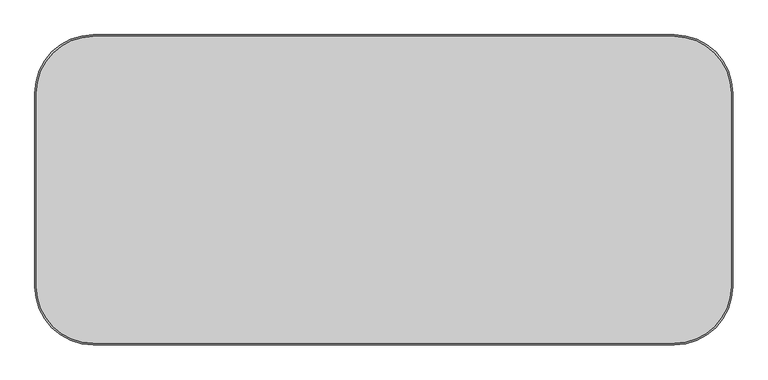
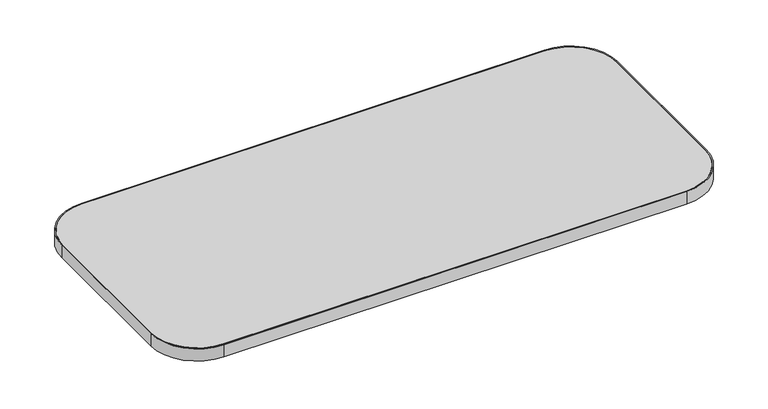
"""IFC4 building model written with IfcOpenShell, lengths in millimetres: furniture geometry, SmithSystem_AM_Desking_HeightAdjustable_Numbers_TwoStudent_Rectangle : 24″ x 54″."""

from ifc_helpers import new_model, si_unit, point, frame, frame_2d, origin, place, context, project, spatial, polyline, circle_curve, trimmed, segment, composite_curve, outline, extrude, source, transform, mapped, element, save


def furniture_4c59b52d(model_context):
    return source(origin(), model_context, "Body", "SweptSolid", [
        extrude(outline(composite_curve([segment(trimmed(circle_curve(frame_2d((114.3, -114.3)), 111.252), [point((3.048, -114.3))], [point((114.3, -3.048))], False, "CARTESIAN"), True, "CONTINUOUS"), segment(polyline([(114.3, -3.048), (1257.3, -3.048)]), True, "CONTINUOUS"), segment(trimmed(circle_curve(frame_2d((1257.3, -114.3)), 111.252), [point((1257.3, -3.048))], [point((1368.552, -114.3))], False, "CARTESIAN"), True, "CONTINUOUS"), segment(polyline([(1368.552, -114.3), (1368.552, -495.3)]), True, "CONTINUOUS"), segment(trimmed(circle_curve(frame_2d((1257.3, -495.3)), 111.252), [point((1368.552, -495.3))], [point((1257.3, -606.552))], False, "CARTESIAN"), True, "CONTINUOUS"), segment(polyline([(1257.3, -606.552), (114.3, -606.552)]), True, "CONTINUOUS"), segment(trimmed(circle_curve(frame_2d((114.3, -495.3)), 111.252), [point((114.3, -606.552))], [point((3.048, -495.3))], False, "CARTESIAN"), True, "CONTINUOUS"), segment(polyline([(3.048, -495.3), (3.048, -114.3)]), True, "CONTINUOUS")], self_intersect=False)), frame((0.0, 0.0, 590.1230576), z_axis=(0.0, 0.0, 1.0), x_axis=(1.0, 0.0, 0.0)), (0.0, 0.0, 1.0), 31.9229424),
        extrude(outline(composite_curve([segment(trimmed(circle_curve(frame_2d((1257.3, -114.3)), 114.3), [point((1257.3, 0.0))], [point((1371.6, -114.3))], False, "CARTESIAN"), True, "CONTINUOUS"), segment(polyline([(1371.6, -114.3), (1371.6, -495.3)]), True, "CONTINUOUS"), segment(trimmed(circle_curve(frame_2d((1257.3, -495.3)), 114.3), [point((1371.6, -495.3))], [point((1257.3, -609.6))], False, "CARTESIAN"), True, "CONTINUOUS"), segment(polyline([(1257.3, -609.6), (114.3, -609.6)]), True, "CONTINUOUS"), segment(trimmed(circle_curve(frame_2d((114.3, -495.3)), 114.3), [point((114.3, -609.6))], [point((0.0, -495.3))], False, "CARTESIAN"), True, "CONTINUOUS"), segment(polyline([(0.0, -495.3), (0.0, -114.3)]), True, "CONTINUOUS"), segment(trimmed(circle_curve(frame_2d((114.3, -114.3)), 114.3), [point((0.0, -114.3))], [point((114.3, 0.0))], False, "CARTESIAN"), True, "CONTINUOUS"), segment(polyline([(114.3, 0.0), (1257.3, 0.0)]), True, "CONTINUOUS")], self_intersect=False), holes=[composite_curve([segment(trimmed(circle_curve(frame_2d((114.3, -114.3)), 111.252), [point((114.3, -3.048))], [point((3.048, -114.3))], True, "CARTESIAN"), True, "CONTINUOUS"), segment(polyline([(3.048, -114.3), (3.048, -495.3)]), True, "CONTINUOUS"), segment(trimmed(circle_curve(frame_2d((114.3, -495.3)), 111.252), [point((3.048, -495.3))], [point((114.3, -606.552))], True, "CARTESIAN"), True, "CONTINUOUS"), segment(polyline([(114.3, -606.552), (1257.3, -606.552)]), True, "CONTINUOUS"), segment(trimmed(circle_curve(frame_2d((1257.3, -495.3)), 111.252), [point((1257.3, -606.552))], [point((1368.552, -495.3))], True, "CARTESIAN"), True, "CONTINUOUS"), segment(polyline([(1368.552, -495.3), (1368.552, -114.3)]), True, "CONTINUOUS"), segment(trimmed(circle_curve(frame_2d((1257.3, -114.3)), 111.252), [point((1368.552, -114.3))], [point((1257.3, -3.048))], True, "CARTESIAN"), True, "CONTINUOUS"), segment(polyline([(1257.3, -3.048), (114.3, -3.048)]), True, "CONTINUOUS")], self_intersect=False)]), frame((0.0, 0.0, 590.1230576), z_axis=(0.0, 0.0, 1.0), x_axis=(1.0, 0.0, 0.0)), (0.0, 0.0, 1.0), 31.9229424),
        extrude(outline(composite_curve([segment(polyline([(71.7988774, -199.7048987), (35.349314, -123.2423896)]), True, "CONTINUOUS"), segment(trimmed(circle_curve(frame_2d((84.6621745, -99.7350229)), 54.6292459), [point((35.349314, -123.2423896))], [point((108.1695493, -50.4221662))], False, "CARTESIAN"), True, "CONTINUOUS"), segment(polyline([(108.1695493, -50.4221662), (184.6335228, -86.872443)]), True, "CONTINUOUS"), segment(trimmed(circle_curve(frame_2d((177.2772676, -94.9260735)), 10.907587), [point((184.6335228, -86.872443))], [point((187.7458684, -97.9893807))], False, "CARTESIAN"), True, "CONTINUOUS"), segment(trimmed(circle_curve(frame_2d((39.5528179, -54.6253383)), 154.4073197), [point((187.7458684, -97.9893807))], [point((183.7352831, -109.8796332))], False, "CARTESIAN"), True, "CONTINUOUS"), segment(trimmed(circle_curve(frame_2d((39.5528179, -54.6253383)), 154.4073197), [point((183.7352831, -109.8796332))], [point((94.8071128, -198.8078035))], False, "CARTESIAN"), True, "CONTINUOUS"), segment(trimmed(circle_curve(frame_2d((39.5528179, -54.6253383)), 154.4073197), [point((94.8071128, -198.8078035))], [point((82.9168603, -202.8183888))], False, "CARTESIAN"), True, "CONTINUOUS"), segment(trimmed(circle_curve(frame_2d((79.8535531, -192.349788)), 10.907587), [point((82.9168603, -202.8183888))], [point((71.7988774, -199.7048987))], False, "CARTESIAN"), True, "CONTINUOUS")], self_intersect=False)), frame((0.0, 0.0, 585.5412941), z_axis=(0.0, 0.0, 1.0), x_axis=(1.0, 0.0, 0.0)), (0.0, 0.0, 1.0), 4.5817635),
        extrude(outline(composite_curve([segment(trimmed(circle_curve(frame_2d((79.8535531, -429.9192273)), 10.907587), [point((71.7988774, -422.5641167))], [point((82.9168603, -419.4506266))], False, "CARTESIAN"), True, "CONTINUOUS"), segment(trimmed(circle_curve(frame_2d((39.5528179, -567.6436771)), 154.4073197), [point((82.9168603, -419.4506266))], [point((94.8071128, -423.4612118))], False, "CARTESIAN"), True, "CONTINUOUS"), segment(trimmed(circle_curve(frame_2d((39.5528179, -567.6436771)), 154.4073197), [point((94.8071128, -423.4612118))], [point((183.7352831, -512.3893822))], False, "CARTESIAN"), True, "CONTINUOUS"), segment(trimmed(circle_curve(frame_2d((39.5528179, -567.6436771)), 154.4073197), [point((183.7352831, -512.3893822))], [point((187.7458684, -524.2796346))], False, "CARTESIAN"), True, "CONTINUOUS"), segment(trimmed(circle_curve(frame_2d((177.2772676, -527.3429419)), 10.907587), [point((187.7458684, -524.2796346))], [point((184.6335228, -535.3965723))], False, "CARTESIAN"), True, "CONTINUOUS"), segment(polyline([(184.6335228, -535.3965723), (108.1695493, -571.8468491)]), True, "CONTINUOUS"), segment(trimmed(circle_curve(frame_2d((84.6621745, -522.5339924)), 54.6292459), [point((108.1695493, -571.8468491))], [point((35.349314, -499.0266257))], False, "CARTESIAN"), True, "CONTINUOUS"), segment(polyline([(35.349314, -499.0266257), (71.7988774, -422.5641167)]), True, "CONTINUOUS")], self_intersect=False)), frame((0.0, 0.0, 585.5412941), z_axis=(0.0, 0.0, 1.0), x_axis=(1.0, 0.0, 0.0)), (0.0, 0.0, 1.0), 4.5817635),
        extrude(outline(composite_curve([segment(trimmed(circle_curve(frame_2d((1291.7464469, -192.349788)), 10.907587), [point((1299.8011226, -199.7048987))], [point((1288.6831397, -202.8183888))], False, "CARTESIAN"), True, "CONTINUOUS"), segment(trimmed(circle_curve(frame_2d((1332.0471821, -54.6253383)), 154.4073197), [point((1288.6831397, -202.8183888))], [point((1276.7928872, -198.8078035))], False, "CARTESIAN"), True, "CONTINUOUS"), segment(trimmed(circle_curve(frame_2d((1332.0471821, -54.6253383)), 154.4073197), [point((1276.7928872, -198.8078035))], [point((1187.8647169, -109.8796332))], False, "CARTESIAN"), True, "CONTINUOUS"), segment(trimmed(circle_curve(frame_2d((1332.0471821, -54.6253383)), 154.4073197), [point((1187.8647169, -109.8796332))], [point((1183.8541316, -97.9893807))], False, "CARTESIAN"), True, "CONTINUOUS"), segment(trimmed(circle_curve(frame_2d((1194.3227324, -94.9260735)), 10.907587), [point((1183.8541316, -97.9893807))], [point((1186.9664772, -86.872443))], False, "CARTESIAN"), True, "CONTINUOUS"), segment(polyline([(1186.9664772, -86.872443), (1263.4304507, -50.4221662)]), True, "CONTINUOUS"), segment(trimmed(circle_curve(frame_2d((1286.9378255, -99.7350229)), 54.6292459), [point((1263.4304507, -50.4221662))], [point((1336.250686, -123.2423896))], False, "CARTESIAN"), True, "CONTINUOUS"), segment(polyline([(1336.250686, -123.2423896), (1299.8011226, -199.7048987)]), True, "CONTINUOUS")], self_intersect=False)), frame((0.0, 0.0, 585.5412941), z_axis=(0.0, 0.0, 1.0), x_axis=(1.0, 0.0, 0.0)), (0.0, 0.0, 1.0), 4.5817635),
        extrude(outline(composite_curve([segment(polyline([(1299.8011226, -422.5641167), (1336.250686, -499.0266257)]), True, "CONTINUOUS"), segment(trimmed(circle_curve(frame_2d((1286.9378255, -522.5339924)), 54.6292459), [point((1336.250686, -499.0266257))], [point((1263.4304507, -571.8468491))], False, "CARTESIAN"), True, "CONTINUOUS"), segment(polyline([(1263.4304507, -571.8468491), (1186.9664772, -535.3965723)]), True, "CONTINUOUS"), segment(trimmed(circle_curve(frame_2d((1194.3227324, -527.3429419)), 10.907587), [point((1186.9664772, -535.3965723))], [point((1183.8541316, -524.2796346))], False, "CARTESIAN"), True, "CONTINUOUS"), segment(trimmed(circle_curve(frame_2d((1332.0471821, -567.6436771)), 154.4073197), [point((1183.8541316, -524.2796346))], [point((1187.8647169, -512.3893822))], False, "CARTESIAN"), True, "CONTINUOUS"), segment(trimmed(circle_curve(frame_2d((1332.0471821, -567.6436771)), 154.4073197), [point((1187.8647169, -512.3893822))], [point((1276.7928872, -423.4612118))], False, "CARTESIAN"), True, "CONTINUOUS"), segment(trimmed(circle_curve(frame_2d((1332.0471821, -567.6436771)), 154.4073197), [point((1276.7928872, -423.4612118))], [point((1288.6831397, -419.4506266))], False, "CARTESIAN"), True, "CONTINUOUS"), segment(trimmed(circle_curve(frame_2d((1291.7464469, -429.9192273)), 10.907587), [point((1288.6831397, -419.4506266))], [point((1299.8011226, -422.5641167))], False, "CARTESIAN"), True, "CONTINUOUS")], self_intersect=False)), frame((0.0, 0.0, 585.5412941), z_axis=(0.0, 0.0, 1.0), x_axis=(1.0, 0.0, 0.0)), (0.0, 0.0, 1.0), 4.5817635),
    ])


if __name__ == "__main__":
    model = new_model("IFC4")
    model_context = context("Model", 3, world=origin())
    ifc_project = project(units=[si_unit("LENGTHUNIT", "METRE", prefix="MILLI")], contexts=[model_context])
    site = spatial("IfcSite", under=ifc_project)
    building = spatial("IfcBuilding", under=site)
    placement = place(None, origin())
    furniture_shape = furniture_4c59b52d(model_context)
    element("IfcFurniture", 1, ObjectType="SmithSystem_AM_Desking_HeightAdjustable_Numbers_TwoStudent_Rectangle : 24″ x 54″", at=placement, inside=building, context=model_context, shape_type="MappedRepresentation", body=[
        mapped(furniture_shape, transform((0.0, 0.0, 0.0), x_axis=(1.0, 0.0, 0.0), y_axis=(0.0, 1.0, 0.0), z_axis=(0.0, 0.0, 1.0))),
    ])
    save(model, "model.ifc")
